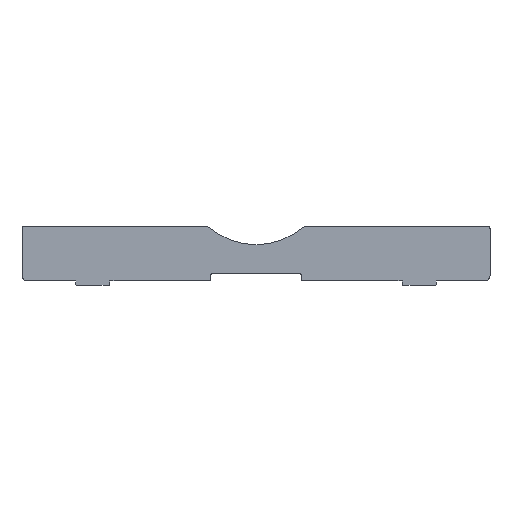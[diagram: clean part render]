
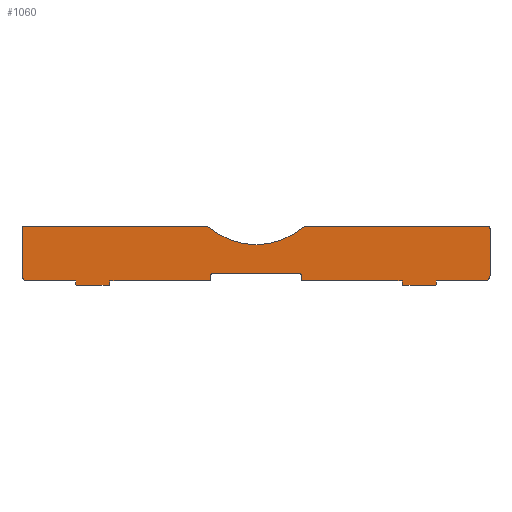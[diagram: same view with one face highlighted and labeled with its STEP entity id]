
A CAD part, top view. The second image highlights one B-rep face of the part: STEP entity #1060.
In plain terms, the highlighted planar face has unit normal (0, 0, 1).
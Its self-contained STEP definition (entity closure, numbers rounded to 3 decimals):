
#209=CARTESIAN_POINT('',(24.,3.,1.25));
#210=DIRECTION('',(0.,0.,-1.));
#211=DIRECTION('',(0.,1.,0.));
#212=AXIS2_PLACEMENT_3D('',#209,#210,#211);
#227=CARTESIAN_POINT('',(-24.,3.,1.25));
#228=DIRECTION('',(0.,0.,-1.));
#229=DIRECTION('',(-1.,0.,0.));
#230=AXIS2_PLACEMENT_3D('',#227,#228,#229);
#292=CARTESIAN_POINT('',(27.568,27.,1.25));
#293=DIRECTION('',(0.,0.,1.));
#294=DIRECTION('',(0.,1.,0.));
#295=AXIS2_PLACEMENT_3D('',#292,#293,#294);
#297=DIRECTION('',(-1.,0.,0.));
#298=VECTOR('',#297,100.432);
#299=CARTESIAN_POINT('',(128.,30.,1.25));
#300=LINE('',#299,#298);
#301=CARTESIAN_POINT('',(128.,29.,1.25));
#302=DIRECTION('',(0.,0.,1.));
#303=DIRECTION('',(1.,0.,0.));
#304=AXIS2_PLACEMENT_3D('',#301,#302,#303);
#306=DIRECTION('',(0.,1.,0.));
#307=VECTOR('',#306,26.);
#308=CARTESIAN_POINT('',(129.,3.,1.25));
#309=LINE('',#308,#307);
#310=CARTESIAN_POINT('',(126.,3.,1.25));
#311=DIRECTION('',(0.,0.,1.));
#312=DIRECTION('',(0.,-1.,0.));
#313=AXIS2_PLACEMENT_3D('',#310,#311,#312);
#315=DIRECTION('',(1.,0.,0.));
#316=VECTOR('',#315,26.5);
#317=CARTESIAN_POINT('',(99.5,0.,1.25));
#318=LINE('',#317,#316);
#319=DIRECTION('',(0.,1.,0.));
#320=VECTOR('',#319,1.5);
#321=CARTESIAN_POINT('',(99.5,-1.5,1.25));
#322=LINE('',#321,#320);
#323=CARTESIAN_POINT('',(98.5,-1.5,1.25));
#324=DIRECTION('',(0.,0.,1.));
#325=DIRECTION('',(0.,-1.,0.));
#326=AXIS2_PLACEMENT_3D('',#323,#324,#325);
#328=DIRECTION('',(1.,0.,0.));
#329=VECTOR('',#328,17.);
#330=CARTESIAN_POINT('',(81.5,-2.5,1.25));
#331=LINE('',#330,#329);
#332=CARTESIAN_POINT('',(81.5,-1.5,1.25));
#333=DIRECTION('',(0.,0.,1.));
#334=DIRECTION('',(-1.,0.,0.));
#335=AXIS2_PLACEMENT_3D('',#332,#333,#334);
#337=DIRECTION('',(0.,-1.,0.));
#338=VECTOR('',#337,1.5);
#339=CARTESIAN_POINT('',(80.5,0.,1.25));
#340=LINE('',#339,#338);
#341=DIRECTION('',(1.,0.,0.));
#342=VECTOR('',#341,55.5);
#343=CARTESIAN_POINT('',(25.,0.,1.25));
#344=LINE('',#343,#342);
#345=DIRECTION('',(0.,-1.,0.));
#346=VECTOR('',#345,3.);
#347=CARTESIAN_POINT('',(25.,3.,1.25));
#348=LINE('',#347,#346);
#349=DIRECTION('',(1.,0.,0.));
#350=VECTOR('',#349,48.);
#351=CARTESIAN_POINT('',(-24.,4.,1.25));
#352=LINE('',#351,#350);
#353=DIRECTION('',(0.,1.,0.));
#354=VECTOR('',#353,3.);
#355=CARTESIAN_POINT('',(-25.,0.,1.25));
#356=LINE('',#355,#354);
#357=DIRECTION('',(1.,0.,0.));
#358=VECTOR('',#357,55.5);
#359=CARTESIAN_POINT('',(-80.5,0.,1.25));
#360=LINE('',#359,#358);
#361=DIRECTION('',(0.,1.,0.));
#362=VECTOR('',#361,1.5);
#363=CARTESIAN_POINT('',(-80.5,-1.5,1.25));
#364=LINE('',#363,#362);
#365=CARTESIAN_POINT('',(-81.5,-1.5,1.25));
#366=DIRECTION('',(0.,0.,1.));
#367=DIRECTION('',(0.,-1.,0.));
#368=AXIS2_PLACEMENT_3D('',#365,#366,#367);
#370=DIRECTION('',(1.,0.,0.));
#371=VECTOR('',#370,17.);
#372=CARTESIAN_POINT('',(-98.5,-2.5,1.25));
#373=LINE('',#372,#371);
#374=CARTESIAN_POINT('',(-98.5,-1.5,1.25));
#375=DIRECTION('',(0.,0.,1.));
#376=DIRECTION('',(-1.,0.,0.));
#377=AXIS2_PLACEMENT_3D('',#374,#375,#376);
#379=DIRECTION('',(0.,-1.,0.));
#380=VECTOR('',#379,1.5);
#381=CARTESIAN_POINT('',(-99.5,0.,1.25));
#382=LINE('',#381,#380);
#383=DIRECTION('',(1.,0.,0.));
#384=VECTOR('',#383,26.5);
#385=CARTESIAN_POINT('',(-126.,0.,1.25));
#386=LINE('',#385,#384);
#387=CARTESIAN_POINT('',(-126.,3.,1.25));
#388=DIRECTION('',(0.,0.,1.));
#389=DIRECTION('',(-1.,0.,0.));
#390=AXIS2_PLACEMENT_3D('',#387,#388,#389);
#392=DIRECTION('',(0.,-1.,0.));
#393=VECTOR('',#392,26.);
#394=CARTESIAN_POINT('',(-129.,29.,1.25));
#395=LINE('',#394,#393);
#396=CARTESIAN_POINT('',(-128.,29.,1.25));
#397=DIRECTION('',(0.,0.,1.));
#398=DIRECTION('',(0.,1.,0.));
#399=AXIS2_PLACEMENT_3D('',#396,#397,#398);
#401=DIRECTION('',(-1.,0.,0.));
#402=VECTOR('',#401,100.432);
#403=CARTESIAN_POINT('',(-27.568,30.,1.25));
#404=LINE('',#403,#402);
#405=CARTESIAN_POINT('',(-27.568,27.,1.25));
#406=DIRECTION('',(0.,0.,1.));
#407=DIRECTION('',(0.641,0.767,0.));
#408=AXIS2_PLACEMENT_3D('',#405,#406,#407);
#410=CARTESIAN_POINT('',(0.,60.,1.25));
#411=DIRECTION('',(0.,0.,-1.));
#412=DIRECTION('',(0.641,-0.767,0.));
#413=AXIS2_PLACEMENT_3D('',#410,#411,#412);
#419=CARTESIAN_POINT('',(-80.5,0.,1.25));
#420=CARTESIAN_POINT('',(-25.,0.,1.25));
#421=VERTEX_POINT('',#419);
#422=VERTEX_POINT('',#420);
#424=CARTESIAN_POINT('',(-99.5,0.,1.25));
#426=VERTEX_POINT('',#424);
#428=CARTESIAN_POINT('',(99.5,0.,1.25));
#430=VERTEX_POINT('',#428);
#435=CARTESIAN_POINT('',(27.568,30.,1.25));
#436=VERTEX_POINT('',#435);
#437=CARTESIAN_POINT('',(25.645,29.302,1.25));
#438=VERTEX_POINT('',#437);
#443=CARTESIAN_POINT('',(-25.645,29.302,1.25));
#444=VERTEX_POINT('',#443);
#445=CARTESIAN_POINT('',(-27.568,30.,1.25));
#446=VERTEX_POINT('',#445);
#451=CARTESIAN_POINT('',(-128.,30.,1.25));
#452=VERTEX_POINT('',#451);
#453=CARTESIAN_POINT('',(-129.,29.,1.25));
#454=VERTEX_POINT('',#453);
#459=CARTESIAN_POINT('',(129.,29.,1.25));
#460=VERTEX_POINT('',#459);
#461=CARTESIAN_POINT('',(128.,30.,1.25));
#462=VERTEX_POINT('',#461);
#467=CARTESIAN_POINT('',(98.5,-2.5,1.25));
#468=VERTEX_POINT('',#467);
#469=CARTESIAN_POINT('',(99.5,-1.5,1.25));
#470=VERTEX_POINT('',#469);
#475=CARTESIAN_POINT('',(80.5,-1.5,1.25));
#476=VERTEX_POINT('',#475);
#477=CARTESIAN_POINT('',(81.5,-2.5,1.25));
#478=VERTEX_POINT('',#477);
#483=CARTESIAN_POINT('',(-81.5,-2.5,1.25));
#484=VERTEX_POINT('',#483);
#485=CARTESIAN_POINT('',(-80.5,-1.5,1.25));
#486=VERTEX_POINT('',#485);
#491=CARTESIAN_POINT('',(-99.5,-1.5,1.25));
#492=VERTEX_POINT('',#491);
#493=CARTESIAN_POINT('',(-98.5,-2.5,1.25));
#494=VERTEX_POINT('',#493);
#499=CARTESIAN_POINT('',(126.,0.,1.25));
#500=VERTEX_POINT('',#499);
#501=CARTESIAN_POINT('',(129.,3.,1.25));
#502=VERTEX_POINT('',#501);
#507=CARTESIAN_POINT('',(-129.,3.,1.25));
#508=VERTEX_POINT('',#507);
#509=CARTESIAN_POINT('',(-126.,0.,1.25));
#510=VERTEX_POINT('',#509);
#513=CARTESIAN_POINT('',(80.5,0.,1.25));
#514=VERTEX_POINT('',#513);
#517=CARTESIAN_POINT('',(25.,0.,1.25));
#518=VERTEX_POINT('',#517);
#520=CARTESIAN_POINT('',(25.,3.,1.25));
#522=VERTEX_POINT('',#520);
#524=CARTESIAN_POINT('',(24.,4.,1.25));
#526=VERTEX_POINT('',#524);
#528=CARTESIAN_POINT('',(-24.,4.,1.25));
#530=VERTEX_POINT('',#528);
#532=CARTESIAN_POINT('',(-25.,3.,1.25));
#534=VERTEX_POINT('',#532);
#1023=CARTESIAN_POINT('',(0.,0.,1.25));
#1024=DIRECTION('',(0.,0.,1.));
#1025=DIRECTION('',(1.,0.,0.));
#1026=AXIS2_PLACEMENT_3D('',#1023,#1024,#1025);
#1027=PLANE('',#1026);
#1028=ORIENTED_EDGE('',*,*,#611,.F.);
#1029=ORIENTED_EDGE('',*,*,#627,.F.);
#1030=ORIENTED_EDGE('',*,*,#640,.F.);
#1031=ORIENTED_EDGE('',*,*,#655,.F.);
#1032=ORIENTED_EDGE('',*,*,#668,.F.);
#1033=ORIENTED_EDGE('',*,*,#683,.F.);
#1034=ORIENTED_EDGE('',*,*,#695,.F.);
#1035=ORIENTED_EDGE('',*,*,#710,.F.);
#1036=ORIENTED_EDGE('',*,*,#725,.F.);
#1037=ORIENTED_EDGE('',*,*,#738,.F.);
#1038=ORIENTED_EDGE('',*,*,#753,.F.);
#1039=ORIENTED_EDGE('',*,*,#766,.F.);
#1040=ORIENTED_EDGE('',*,*,#779,.F.);
#1041=ORIENTED_EDGE('',*,*,#795,.F.);
#1042=ORIENTED_EDGE('',*,*,#809,.F.);
#1043=ORIENTED_EDGE('',*,*,#823,.F.);
#1044=ORIENTED_EDGE('',*,*,#837,.F.);
#1045=ORIENTED_EDGE('',*,*,#850,.F.);
#1046=ORIENTED_EDGE('',*,*,#863,.F.);
#1047=ORIENTED_EDGE('',*,*,#878,.F.);
#1048=ORIENTED_EDGE('',*,*,#893,.F.);
#1049=ORIENTED_EDGE('',*,*,#906,.F.);
#1050=ORIENTED_EDGE('',*,*,#921,.F.);
#1051=ORIENTED_EDGE('',*,*,#933,.F.);
#1052=ORIENTED_EDGE('',*,*,#948,.F.);
#1053=ORIENTED_EDGE('',*,*,#961,.F.);
#1054=ORIENTED_EDGE('',*,*,#976,.F.);
#1055=ORIENTED_EDGE('',*,*,#989,.F.);
#1056=ORIENTED_EDGE('',*,*,#1004,.F.);
#1057=ORIENTED_EDGE('',*,*,#1016,.F.);
#1058=EDGE_LOOP('',(#1028,#1029,#1030,#1031,#1032,#1033,#1034,#1035,#1036,#1037,
#1038,#1039,#1040,#1041,#1042,#1043,#1044,#1045,#1046,#1047,#1048,#1049,#1050,
#1051,#1052,#1053,#1054,#1055,#1056,#1057));
#1059=FACE_OUTER_BOUND('',#1058,.F.);
#213=CIRCLE('',#212,1.);
#231=CIRCLE('',#230,1.);
#296=CIRCLE('',#295,3.);
#305=CIRCLE('',#304,1.);
#314=CIRCLE('',#313,3.);
#327=CIRCLE('',#326,1.);
#336=CIRCLE('',#335,1.);
#369=CIRCLE('',#368,1.);
#378=CIRCLE('',#377,1.);
#391=CIRCLE('',#390,3.);
#400=CIRCLE('',#399,1.);
#409=CIRCLE('',#408,3.);
#414=CIRCLE('',#413,40.);
#611=EDGE_CURVE('',#436,#438,#296,.T.);
#627=EDGE_CURVE('',#462,#436,#300,.T.);
#640=EDGE_CURVE('',#460,#462,#305,.T.);
#655=EDGE_CURVE('',#502,#460,#309,.T.);
#668=EDGE_CURVE('',#500,#502,#314,.T.);
#683=EDGE_CURVE('',#430,#500,#318,.T.);
#695=EDGE_CURVE('',#470,#430,#322,.T.);
#710=EDGE_CURVE('',#468,#470,#327,.T.);
#725=EDGE_CURVE('',#478,#468,#331,.T.);
#738=EDGE_CURVE('',#476,#478,#336,.T.);
#753=EDGE_CURVE('',#514,#476,#340,.T.);
#766=EDGE_CURVE('',#518,#514,#344,.T.);
#779=EDGE_CURVE('',#522,#518,#348,.T.);
#795=EDGE_CURVE('',#526,#522,#213,.T.);
#809=EDGE_CURVE('',#530,#526,#352,.T.);
#823=EDGE_CURVE('',#534,#530,#231,.T.);
#837=EDGE_CURVE('',#422,#534,#356,.T.);
#850=EDGE_CURVE('',#421,#422,#360,.T.);
#863=EDGE_CURVE('',#486,#421,#364,.T.);
#878=EDGE_CURVE('',#484,#486,#369,.T.);
#893=EDGE_CURVE('',#494,#484,#373,.T.);
#906=EDGE_CURVE('',#492,#494,#378,.T.);
#921=EDGE_CURVE('',#426,#492,#382,.T.);
#933=EDGE_CURVE('',#510,#426,#386,.T.);
#948=EDGE_CURVE('',#508,#510,#391,.T.);
#961=EDGE_CURVE('',#454,#508,#395,.T.);
#976=EDGE_CURVE('',#452,#454,#400,.T.);
#989=EDGE_CURVE('',#446,#452,#404,.T.);
#1004=EDGE_CURVE('',#444,#446,#409,.T.);
#1016=EDGE_CURVE('',#438,#444,#414,.T.);
#1060=ADVANCED_FACE('',(#1059),#1027,.T.);
